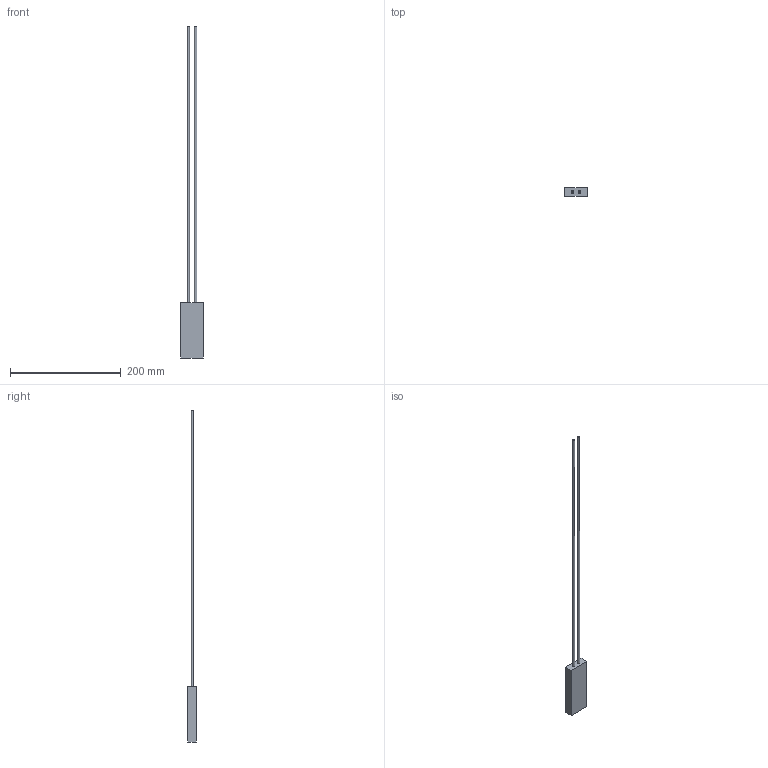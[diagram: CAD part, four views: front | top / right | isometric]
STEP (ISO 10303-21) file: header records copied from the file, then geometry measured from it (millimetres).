
FILE_DESCRIPTION(/* description */ (''),/* implementation_level */ '2;1');
FILE_NAME(/* name */ 'C:\_Vault\Dati\CATALOGO\RFD\RFD050.stp',/* time_stamp */ '2014-03-24T16:31:54+01:00',/* author */ ('stefano'),/* organization */ (''),/* preprocessor_version */ 'ST-DEVELOPER v15.2',/* originating_system */ 'Autodesk Inventor 2014',/* authorisation */ '');
FILE_SCHEMA (('AUTOMOTIVE_DESIGN { 1 0 10303 214 3 1 1 }'));
Length unit declared in the file: millimetre
Products named in the file (1): RFD050
Bounding box: 40 x 15 x 600.1 mm (x, y, z)
Volume: 72567 mm3; surface area: 24767.6 mm2
Topology: 1 solids, 1 shells, 14 faces, 24 edges, 16 vertices
Faces by surface type: plane 10, cylinder 4
Full cylindrical faces by diameter (mm): 2 x2, 4 x2
Entity records: 386 total; most frequent: DIRECTION 58, CARTESIAN_POINT 51, ORIENTED_EDGE 40, AXIS2_PLACEMENT_3D 23, EDGE_LOOP 22, EDGE_CURVE 20, VERTEX_POINT 16, STYLED_ITEM 15
